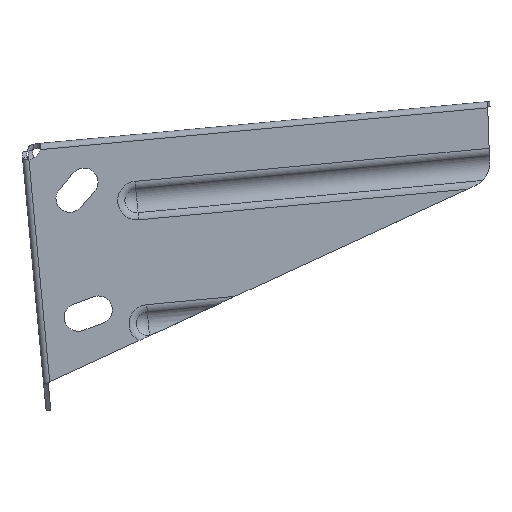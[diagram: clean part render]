
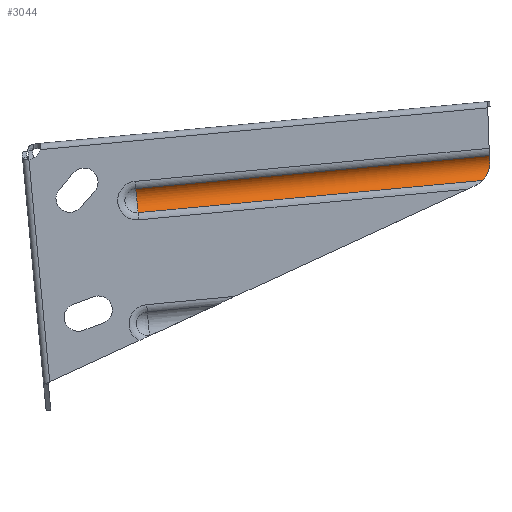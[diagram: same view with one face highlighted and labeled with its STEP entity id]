
A CAD part, top view. The second image highlights one B-rep face of the part: STEP entity #3044.
In plain terms, the highlighted cylindrical face has radius 5 mm (diameter 10 mm), a partial arc.
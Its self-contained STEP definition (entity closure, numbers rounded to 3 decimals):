
#48 = CARTESIAN_POINT ( 'NONE',  ( 149.108, -5.19, -1.283 ) ) ;
#55 = B_SPLINE_CURVE_WITH_KNOTS ( 'NONE', 3,
 ( #2430, #48, #536, #1342, #839, #581, #2672, #2958, #1652, #2709, #1664, #2443, #2379, #598, #1599, #2722 ),
 .UNSPECIFIED., .F., .F.,
 ( 4, 2, 2, 2, 2, 2, 2, 4 ),
 ( 0., 0.001, 0.002, 0.003, 0.003, 0.004, 0.005, 0.007 ),
 .UNSPECIFIED. ) ;
#82 = DIRECTION ( 'NONE',  ( 0.996, 0.093, 0. ) ) ;
#90 = VERTEX_POINT ( 'NONE', #3102 ) ;
#121 = VERTEX_POINT ( 'NONE', #2845 ) ;
#396 = EDGE_CURVE ( 'NONE', #90, #2405, #1937, .T. ) ;
#407 = DIRECTION ( 'NONE',  ( -0.093, 0.996, 0. ) ) ;
#488 = EDGE_CURVE ( 'NONE', #121, #2769, #701, .T. ) ;
#501 = DIRECTION ( 'NONE',  ( 0.996, 0.093, 0. ) ) ;
#536 = CARTESIAN_POINT ( 'NONE',  ( 149.103, -5.471, -1.361 ) ) ;
#558 = DIRECTION ( 'NONE',  ( -0.093, 0.996, 0. ) ) ;
#581 = CARTESIAN_POINT ( 'NONE',  ( 148.922, -6.91, -1.503 ) ) ;
#598 = CARTESIAN_POINT ( 'NONE',  ( 147.425, -10.121, -0.314 ) ) ;
#605 = ORIENTED_EDGE ( 'NONE', *, *, #396, .F. ) ;
#649 = CARTESIAN_POINT ( 'NONE',  ( 35.177, -17.319, 3.5 ) ) ;
#701 = LINE ( 'NONE', #3390, #1735 ) ;
#839 = CARTESIAN_POINT ( 'NONE',  ( 149.026, -6.334, -1.496 ) ) ;
#867 = DIRECTION ( 'NONE',  ( 0.996, 0.093, 0. ) ) ;
#881 = CARTESIAN_POINT ( 'NONE',  ( 34.815, -13.433, 0.375 ) ) ;
#919 = EDGE_CURVE ( 'NONE', #2405, #2699, #3251, .T. ) ;
#990 = ORIENTED_EDGE ( 'NONE', *, *, #488, .T. ) ;
#992 = CARTESIAN_POINT ( 'NONE',  ( 149.068, -4.067, -0.861 ) ) ;
#1030 = CARTESIAN_POINT ( 'NONE',  ( 149.023, -2.769, 0.375 ) ) ;
#1077 = CIRCLE ( 'NONE', #3008, 5. ) ;
#1212 = ORIENTED_EDGE ( 'NONE', *, *, #2069, .F. ) ;
#1342 = CARTESIAN_POINT ( 'NONE',  ( 149.063, -6.041, -1.467 ) ) ;
#1373 = ORIENTED_EDGE ( 'NONE', *, *, #1460, .T. ) ;
#1411 = ORIENTED_EDGE ( 'NONE', *, *, #919, .F. ) ;
#1460 = EDGE_CURVE ( 'NONE', #90, #121, #1077, .T. ) ;
#1485 = DIRECTION ( 'NONE',  ( -0.996, -0.093, 0. ) ) ;
#1599 = CARTESIAN_POINT ( 'NONE',  ( 147.114, -10.492, 0.007 ) ) ;
#1607 = CARTESIAN_POINT ( 'NONE',  ( 35.177, -17.319, 3.5 ) ) ;
#1652 = CARTESIAN_POINT ( 'NONE',  ( 148.592, -8.021, -1.339 ) ) ;
#1658 = FACE_OUTER_BOUND ( 'NONE', #3313, .T. ) ;
#1664 = CARTESIAN_POINT ( 'NONE',  ( 148.255, -8.787, -1.082 ) ) ;
#1735 = VECTOR ( 'NONE', #501, 1000. ) ;
#1809 = AXIS2_PLACEMENT_3D ( 'NONE', #1607, #867, #558 ) ;
#1937 = LINE ( 'NONE', #881, #2348 ) ;
#2047 = CARTESIAN_POINT ( 'NONE',  ( 149.098, -4.913, -1.18 ) ) ;
#2069 = EDGE_CURVE ( 'NONE', #2699, #2769, #55, .T. ) ;
#2095 = CARTESIAN_POINT ( 'NONE',  ( 149.043, -3.334, -0.331 ) ) ;
#2348 = VECTOR ( 'NONE', #82, 1000. ) ;
#2379 = CARTESIAN_POINT ( 'NONE',  ( 147.857, -9.488, -0.729 ) ) ;
#2405 = VERTEX_POINT ( 'NONE', #2742 ) ;
#2430 = CARTESIAN_POINT ( 'NONE',  ( 149.098, -4.913, -1.18 ) ) ;
#2443 = CARTESIAN_POINT ( 'NONE',  ( 147.996, -9.263, -0.856 ) ) ;
#2448 = CYLINDRICAL_SURFACE ( 'NONE', #1809, 5. ) ;
#2672 = CARTESIAN_POINT ( 'NONE',  ( 148.854, -7.193, -1.484 ) ) ;
#2699 = VERTEX_POINT ( 'NONE', #2047 ) ;
#2709 = CARTESIAN_POINT ( 'NONE',  ( 148.375, -8.539, -1.179 ) ) ;
#2722 = CARTESIAN_POINT ( 'NONE',  ( 146.792, -10.817, 0.375 ) ) ;
#2742 = CARTESIAN_POINT ( 'NONE',  ( 149.023, -2.769, 0.375 ) ) ;
#2769 = VERTEX_POINT ( 'NONE', #2935 ) ;
#2845 = CARTESIAN_POINT ( 'NONE',  ( 35.54, -21.205, 0.375 ) ) ;
#2935 = CARTESIAN_POINT ( 'NONE',  ( 146.792, -10.817, 0.375 ) ) ;
#2958 = CARTESIAN_POINT ( 'NONE',  ( 148.689, -7.748, -1.402 ) ) ;
#3008 = AXIS2_PLACEMENT_3D ( 'NONE', #649, #1485, #407 ) ;
#3044 = ADVANCED_FACE ( 'NONE', ( #1658 ), #2448, .F. ) ;
#3102 = CARTESIAN_POINT ( 'NONE',  ( 34.815, -13.433, 0.375 ) ) ;
#3146 = CARTESIAN_POINT ( 'NONE',  ( 149.098, -4.913, -1.18 ) ) ;
#3251 =( BOUNDED_CURVE ( )  B_SPLINE_CURVE ( 3, ( #1030, #2095, #992, #3146 ),
 .UNSPECIFIED., .F., .T. ) 
 B_SPLINE_CURVE_WITH_KNOTS ( ( 4, 4 ),
 ( 0.675, 1.211 ),
 .UNSPECIFIED. ) 
 CURVE ( )  GEOMETRIC_REPRESENTATION_ITEM ( )  RATIONAL_B_SPLINE_CURVE ( ( 1., 0.976, 0.976, 1. ) ) 
 REPRESENTATION_ITEM ( '' )  );
#3313 = EDGE_LOOP ( 'NONE', ( #1411, #605, #1373, #990, #1212 ) ) ;
#3390 = CARTESIAN_POINT ( 'NONE',  ( 35.54, -21.205, 0.375 ) ) ;
